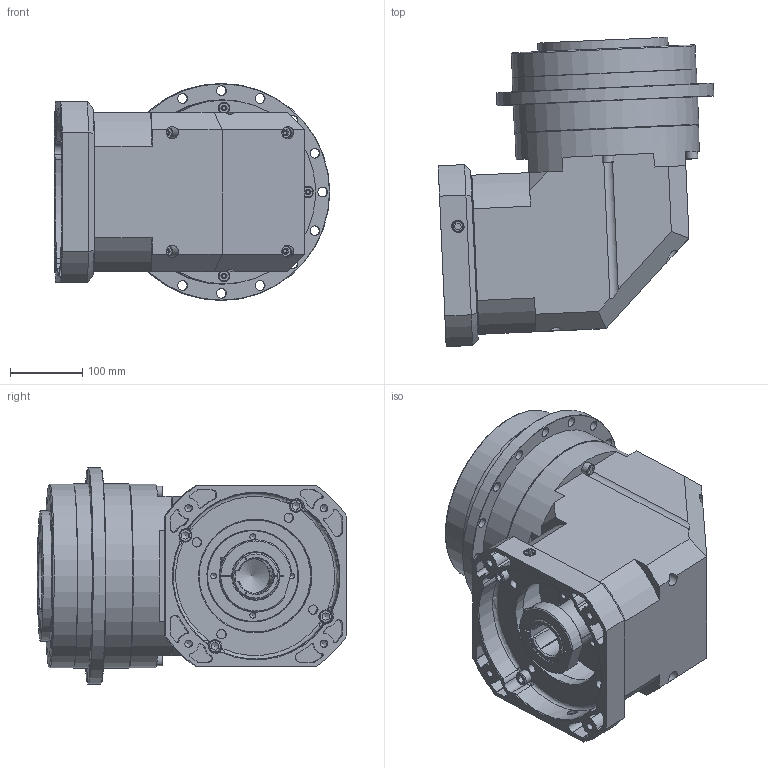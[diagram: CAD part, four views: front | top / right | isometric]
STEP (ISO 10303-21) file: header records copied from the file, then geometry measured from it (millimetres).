
FILE_DESCRIPTION((''),'2;1');
FILE_NAME('D:\WORK\감속기 카다로그 도면\ATG Reducer(홈페이지)\KSDL\KSDL-255-1.stp','2015-04-29T13:36:12',('young'),(''),'Autodesk Inventor 2012','Autodesk Inventor 2012','');
FILE_SCHEMA(('CONFIG_CONTROL_DESIGN'));
Length unit declared in the file: millimetre
Products named in the file (4): KSDL-255-1; 220-BK(230-265-M12); BS 4168 : 부품 1 6각 소켓 머리 캡 나사 - 미터 M12 x 35
Assembly tree (6 placements, depth 2):
  KSDL-255-1
    KSDL-255-1
    220-BK(230-265-M12)
    BS 4168 : 부품 1 6각 소켓 머리 캡 나사 - 미터 M12 x 35  x4
Bounding box: 381.07 x 427.5 x 300 mm (x, y, z)
Volume: 16436235.2 mm3; surface area: 1428797.1 mm2
Topology: 23 solids, 23 shells, 883 faces, 2337 edges, 1550 vertices
Faces by surface type: plane 354, cylinder 316, cone 148, bspline 39, torus 26
Full cylindrical faces by diameter (mm): 3.3 x8, 8 x4, 8.5 x1, 10 x28, 10.2 x8, 11 x8, 12 x5, 13 x11, 13.5 x16, 14 x12, 14.275 x2, 14.46 x6, 14.5 x2, 16 x8, 17 x4, 18 x4, 44 x1, 48.2 x1, 52 x1, 58 x1, 65 x1, 65.4 x1, 74.8 x1, 75 x1, 80 x1, 81 x1, 85 x1, 87 x1, 90 x3, 100 x1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
Entity records: 43549 total; most frequent: CARTESIAN_POINT 24912, DIRECTION 3713, ORIENTED_EDGE 3680, EDGE_CURVE 1840, AXIS2_PLACEMENT_3D 1541, VERTEX_POINT 1409, EDGE_LOOP 1213, FACE_OUTER_BOUND 795
